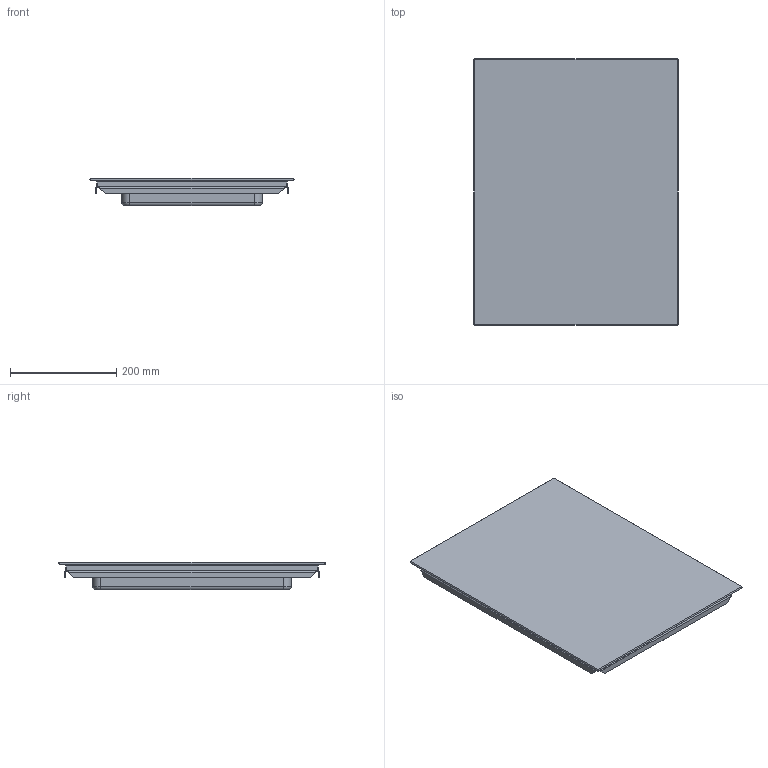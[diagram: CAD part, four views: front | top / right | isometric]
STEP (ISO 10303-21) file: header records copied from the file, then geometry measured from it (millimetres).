
FILE_DESCRIPTION(('CATIA V6 STEP','CAx-IF Rec.Pracs.--- Model Styling and Organization---1.2---2011-12-15'),'2;1');
FILE_NAME('P:\CATIA-UserDaten\3D Planungsdaten\GK\3D GK Sortiment 2017\3108500205-A.stp','2016-10-28T14:24:04+00:00',('none'),('none'),'CATIA Unofficial Packaging Version','DASSAULT SYSTEMES CATIA V6 STEP AP214','none');
FILE_SCHEMA(('AUTOMOTIVE_DESIGN { 1 0 10303 214 1 1 1 1 }'));
Length unit declared in the file: millimetre
Products named in the file (1): 1010477-00
Bounding box: 384 x 500.99 x 51 mm (x, y, z)
Volume: 4387654 mm3; surface area: 1084443.3 mm2
Topology: 4 solids, 4 shells, 89 faces, 224 edges, 144 vertices
Faces by surface type: plane 41, cylinder 32, cone 8, revolution 4, torus 4
Entity records: 2817 total; most frequent: CARTESIAN_POINT 719, ORIENTED_EDGE 448, DIRECTION 356, EDGE_CURVE 224, VERTEX_POINT 144, AXIS2_PLACEMENT_3D 139, VECTOR 132, LINE 132
